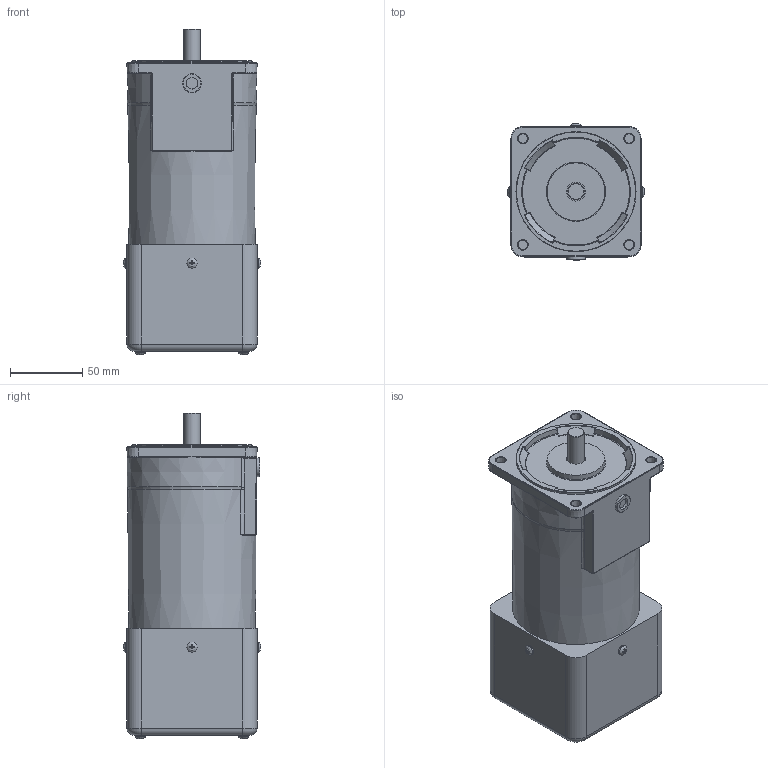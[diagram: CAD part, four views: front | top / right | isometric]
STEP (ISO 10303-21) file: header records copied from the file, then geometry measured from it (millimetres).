
FILE_DESCRIPTION (( 'STEP AP214' ), '1' );
FILE_NAME ('9TDG¤±-60F2H.STEP', '2025-01-13T08:14:00', ( '' ), ( '' ), 'SwSTEP 2.0', 'SolidWorks 2024', '' );
FILE_SCHEMA (( 'AUTOMOTIVE_DESIGN' ));
Length unit declared in the file: millimetre
Products named in the file (1): 9TDGㅁ-60F2H
Bounding box: 95.13 x 95.13 x 225.57 mm (x, y, z)
Volume: 1380091.8 mm3; surface area: 84708.6 mm2
Topology: 1 solids, 1 shells, 435 faces, 1124 edges, 721 vertices
Faces by surface type: plane 196, cylinder 133, bspline 36, torus 35, cone 33, sphere 2
Full cylindrical faces by diameter (mm): 6.5 x4, 7 x8, 8 x1, 10 x1, 11.39 x1, 13 x2, 83.1 x1
Entity records: 13902 total; most frequent: CARTESIAN_POINT 3912, ORIENTED_EDGE 2098, DIRECTION 1961, EDGE_CURVE 1049, AXIS2_PLACEMENT_3D 743, VERTEX_POINT 702, EDGE_LOOP 529, VECTOR 475
